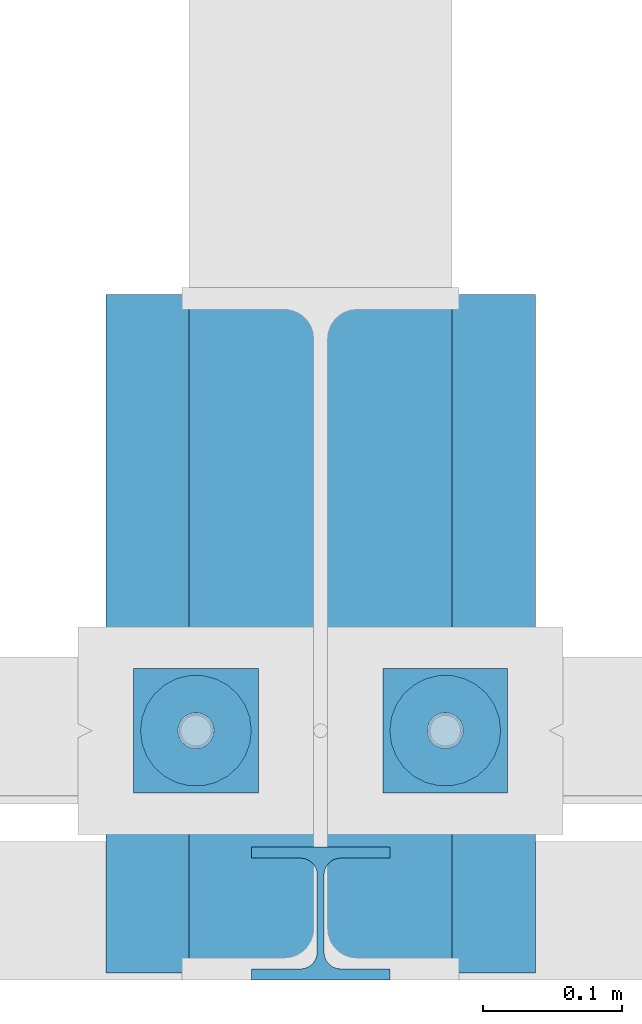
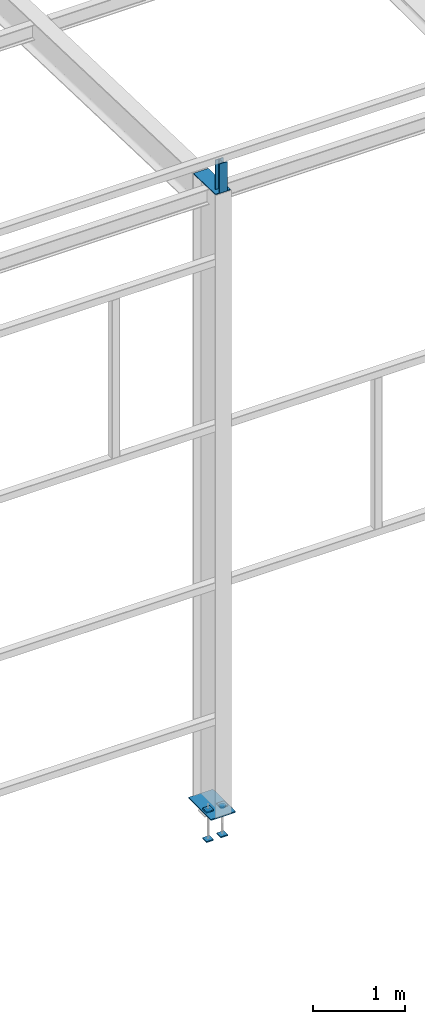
# One storey, part 68 of 123: 7 discrete accessories, 3 mechanical fasteners, 2 elements without a shape of their own.
"""IFC2X3 building model written with IfcOpenShell, lengths in millimetres."""

from ifc_helpers import new_model, si_unit, frame, origin_with_axes, origin_2d_with_axis, place, context, subcontext, project, spatial, polyline, circle, i_section, outline, extrude, clip, halfspace, source, transform, mapped, material, type_object, element, aggregate, save


model = new_model("IFC2X3")

# Units and contexts
model_context = context("Model", 3, precision=1e-05, world=origin_with_axes())
body_context = subcontext(model_context, "Body", "Model", "MODEL_VIEW")
ifc_project = project(units=[si_unit("LENGTHUNIT", "METRE", prefix="MILLI"), si_unit("AREAUNIT", "SQUARE_METRE"), si_unit("VOLUMEUNIT", "CUBIC_METRE"), si_unit("MASSUNIT", "GRAM", prefix="KILO"), si_unit("TIMEUNIT", "SECOND"), si_unit("PLANEANGLEUNIT", "RADIAN"), si_unit("SOLIDANGLEUNIT", "STERADIAN"), si_unit("THERMODYNAMICTEMPERATUREUNIT", "DEGREE_CELSIUS"), si_unit("LUMINOUSINTENSITYUNIT", "LUMEN")], contexts=[model_context])

# Site, building, storey
site_placement = place(None, origin_with_axes())
site = spatial("IfcSite", under=ifc_project, at=site_placement, Name="Undefined", CompositionType="ELEMENT")
building_placement = place(site_placement, origin_with_axes())
building = spatial("IfcBuilding", under=site, at=building_placement, Name="Undefined", CompositionType="ELEMENT")
storey_placement = place(building_placement, origin_with_axes())
storey = spatial("IfcBuildingStorey", under=building, at=storey_placement, Name="Undefined", CompositionType="ELEMENT", Elevation=0.0)

# Assembly, mechanical fasteners, discrete accessories
assembly_1_placement = place(storey_placement, origin_with_axes())
assembly_1 = element("IfcElementAssembly", 1, at=assembly_1_placement, inside=storey, Name="Steel Assembly", AssemblyPlace="NOTDEFINED", PredefinedType="RIGID_FRAME")
ifc_material_1 = material(Name="6.8")
discrete_accessory_type_1 = type_object("IfcDiscreteAccessoryType", Name="Bolt assembly")
shared_shape_1 = source(origin_with_axes(), body_context, "Body", "SweptSolid", [
    extrude(circle(Radius=40.0, at=origin_2d_with_axis()), frame((0.0, -15.0, 0.0), z_axis=(0.0, 1.0, 0.0), x_axis=(1.0, 0.0, 0.0)), (0.0, 0.0, 1.0), 15.1),
])
mechanical_fastener_1_placement = place(assembly_1_placement, frame((8389.99715044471, 0.0, -250.0), z_axis=(0.0, 1.0, 0.0), x_axis=(1.0, 0.0, 0.0)))
mechanical_fastener_1 = element("IfcMechanicalFastener", 2, at=mechanical_fastener_1_placement, type_object=discrete_accessory_type_1, material=ifc_material_1, Name="Bolt assembly", NominalDiameter=30.0, NominalLength=15.0, context=body_context, shape_type="MappedRepresentation", body=[
    mapped(shared_shape_1, transform((0.0, 0.0, 0.0))),
])
mechanical_fastener_2_placement = place(assembly_1_placement, frame((8569.99715044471, 0.0, -250.0), z_axis=(0.0, -1.0, 0.0), x_axis=(-1.0, 0.0, 0.0)))
mechanical_fastener_2 = element("IfcMechanicalFastener", 3, at=mechanical_fastener_2_placement, type_object=discrete_accessory_type_1, material=ifc_material_1, Name="Bolt assembly", NominalDiameter=30.0, NominalLength=15.0, context=body_context, shape_type="MappedRepresentation", body=[
    mapped(shared_shape_1, transform((0.0, 0.0, 0.0))),
])
ifc_material_2 = material(Name="STEEL/S235-E24")
discrete_accessory_type_2 = type_object("IfcDiscreteAccessoryType", Name="COIFFE")
discrete_accessory_1_placement = place(assembly_1_placement, frame((8480.0000000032, 312.157053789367, 8035.18760098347), z_axis=(0.0, -0.0314107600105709, -0.999506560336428), x_axis=(0.0, -0.999506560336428, 0.0314107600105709)))
discrete_accessory_1 = element("IfcDiscreteAccessory", 4, at=discrete_accessory_1_placement, type_object=discrete_accessory_type_2, material=ifc_material_2, Name="COIFFE", ObjectType="PL10*190", context=body_context, shape_type="SweptSolid", body=[
    extrude(outline(polyline([(484.238942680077, 95.0), (484.238942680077, -95.0), (0.0, -95.0), (0.0, 95.0), (484.238942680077, 95.0)])), frame((0.0, 0.0, -5.0), z_axis=(0.0, 0.0, 1.0), x_axis=(1.0, 0.0, 0.0)), (0.0, 0.0, 1.0), 10.0),
])
discrete_accessory_type_3 = type_object("IfcDiscreteAccessoryType", Name="PLATINE")
discrete_accessory_2_placement = place(assembly_1_placement, frame((8634.99715044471, 70.0, -242.5), z_axis=(0.0, 0.0, 1.0), x_axis=(-1.0, 0.0, 0.0)))
discrete_accessory_2 = element("IfcDiscreteAccessory", 5, at=discrete_accessory_2_placement, type_object=discrete_accessory_type_3, material=ifc_material_2, Name="PLATINE", ObjectType="PL15*490", context=body_context, shape_type="SweptSolid", body=[
    extrude(outline(polyline([(310.0, 245.0), (310.0, -245.0), (0.0, -245.0), (0.0, 245.0), (310.0, 245.0)])), frame((0.0, 0.0, -7.5), z_axis=(0.0, 0.0, 1.0), x_axis=(1.0, 0.0, 0.0)), (0.0, 0.0, 1.0), 15.0),
])
ifc_material_3 = material(Name="STEEL/S275-E28")
discrete_accessory_type_4 = type_object("IfcDiscreteAccessoryType", Name="BAIONNETTE")
discrete_accessory_3_placement = place(assembly_1_placement, frame((8480.0, -132.0, 8049.99544952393), z_axis=(0.0, 0.0, 1.0), x_axis=(0.0, 1.0, 0.0)))
discrete_accessory_3 = element("IfcDiscreteAccessory", 6, at=discrete_accessory_3_placement, type_object=discrete_accessory_type_4, material=ifc_material_3, Name="BAIONNETTE", ObjectType="HEA100", context=body_context, shape_type="Clipping", body=[
    clip(extrude(i_section(OverallWidth=100.0, OverallDepth=96.0, WebThickness=5.0, FlangeThickness=8.0, FilletRadius=12.0, at=origin_2d_with_axis()), frame((0.0, 0.0, 395.004550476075), z_axis=(0.0, 0.0, -1.0), x_axis=(0.0, 1.0, 0.0)), (0.0, 0.0, 1.0), 392.4), halfspace(frame((55.2953255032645, 0.0, 2.41509197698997), z_axis=(-0.0314107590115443, 0.0, -0.999506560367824), x_axis=(0.0, 1.0, 0.0)), False)),
])
aggregate(assembly_1, [mechanical_fastener_1, mechanical_fastener_2, discrete_accessory_1, discrete_accessory_2, discrete_accessory_3])

# Assembly, mechanical fastener, discrete accessories
assembly_2_placement = place(storey_placement, origin_with_axes())
assembly_2 = element("IfcElementAssembly", 7, at=assembly_2_placement, inside=storey, Name="Steel Assembly", AssemblyPlace="NOTDEFINED", PredefinedType="RIGID_FRAME")
shared_shape_2 = source(origin_with_axes(), body_context, "Body", "SweptSolid", [
    extrude(circle(Radius=13.0, at=origin_2d_with_axis()), frame((0.0, 0.0, 0.0), z_axis=(0.0, 1.0, 0.0), x_axis=(1.0, 0.0, 0.0)), (0.0, 0.0, 1.0), 10.1),
])
mechanical_fastener_3_placement = place(assembly_2_placement, frame((8480.00000007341, 0.0, -250.0), z_axis=(-1.0, 0.0, 0.0), x_axis=(0.0, 1.0, 0.0)))
mechanical_fastener_3 = element("IfcMechanicalFastener", 8, at=mechanical_fastener_3_placement, type_object=discrete_accessory_type_1, material=ifc_material_1, Name="Bolt assembly", NominalDiameter=24.0, NominalLength=10.0, context=body_context, shape_type="MappedRepresentation", body=[
    mapped(shared_shape_2, transform((-4.00177668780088e-11, 0.0, -90.0))),
    mapped(shared_shape_2, transform((4.00177668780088e-11, 0.0, 90.0))),
])
discrete_accessory_type_5 = type_object("IfcDiscreteAccessoryType", Name="PLAQUETTE")
discrete_accessory_4_placement = place(assembly_2_placement, frame((8434.99715044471, -45.0, -227.5), z_axis=(0.0, 0.0, 1.0), x_axis=(0.0, 1.0, 0.0)))
discrete_accessory_4 = element("IfcDiscreteAccessory", 9, at=discrete_accessory_4_placement, type_object=discrete_accessory_type_5, material=ifc_material_2, Name="PLAQUETTE", ObjectType="PL15*90", context=body_context, shape_type="SweptSolid", body=[
    extrude(outline(polyline([(0.0, 0.0), (90.0, 0.0), (90.0, 90.0), (0.0, 90.0), (0.0, 0.0)])), frame((0.0, 0.0, -7.5), z_axis=(0.0, 0.0, 1.0), x_axis=(1.0, 0.0, 0.0)), (0.0, 0.0, 1.0), 15.0),
])
discrete_accessory_5_placement = place(assembly_2_placement, frame((8614.99715044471, -45.0, -227.5), z_axis=(0.0, 0.0, 1.0), x_axis=(0.0, 1.0, 0.0)))
discrete_accessory_5 = element("IfcDiscreteAccessory", 10, at=discrete_accessory_5_placement, type_object=discrete_accessory_type_5, material=ifc_material_2, Name="PLAQUETTE", ObjectType="PL15*90", context=body_context, shape_type="SweptSolid", body=[
    extrude(outline(polyline([(0.0, 0.0), (90.0, 0.0), (90.0, 90.0), (0.0, 90.0), (0.0, 0.0)])), frame((0.0, 0.0, -7.5), z_axis=(0.0, 0.0, 1.0), x_axis=(1.0, 0.0, 0.0)), (0.0, 0.0, 1.0), 15.0),
])
discrete_accessory_6_placement = place(assembly_2_placement, frame((8434.99715044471, -45.0, -622.5), z_axis=(0.0, 0.0, 1.0), x_axis=(0.0, 1.0, 0.0)))
discrete_accessory_6 = element("IfcDiscreteAccessory", 11, at=discrete_accessory_6_placement, type_object=discrete_accessory_type_5, material=ifc_material_2, Name="PLAQUETTE", ObjectType="PL15*90", context=body_context, shape_type="SweptSolid", body=[
    extrude(outline(polyline([(0.0, 0.0), (90.0, 0.0), (90.0, 90.0), (0.0, 90.0), (0.0, 0.0)])), frame((0.0, 0.0, -7.5), z_axis=(0.0, 0.0, 1.0), x_axis=(1.0, 0.0, 0.0)), (0.0, 0.0, 1.0), 15.0),
])
discrete_accessory_7_placement = place(assembly_2_placement, frame((8614.99715044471, -45.0, -622.5), z_axis=(0.0, 0.0, 1.0), x_axis=(0.0, 1.0, 0.0)))
discrete_accessory_7 = element("IfcDiscreteAccessory", 12, at=discrete_accessory_7_placement, type_object=discrete_accessory_type_5, material=ifc_material_2, Name="PLAQUETTE", ObjectType="PL15*90", context=body_context, shape_type="SweptSolid", body=[
    extrude(outline(polyline([(0.0, 0.0), (90.0, 0.0), (90.0, 90.0), (0.0, 90.0), (0.0, 0.0)])), frame((0.0, 0.0, -7.5), z_axis=(0.0, 0.0, 1.0), x_axis=(1.0, 0.0, 0.0)), (0.0, 0.0, 1.0), 15.0),
])
aggregate(assembly_2, [mechanical_fastener_3, discrete_accessory_4, discrete_accessory_5, discrete_accessory_6, discrete_accessory_7])

save(model, "model.ifc")
